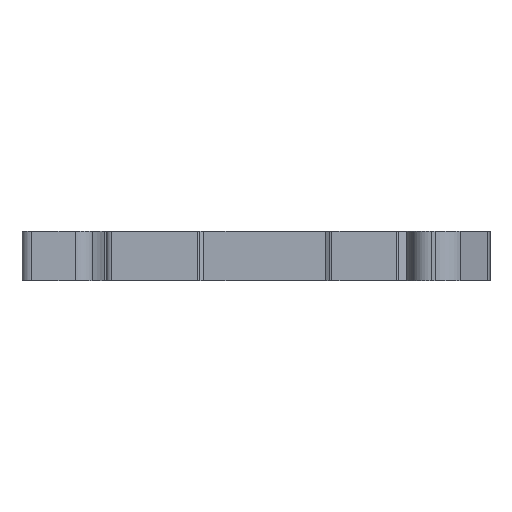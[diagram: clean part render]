
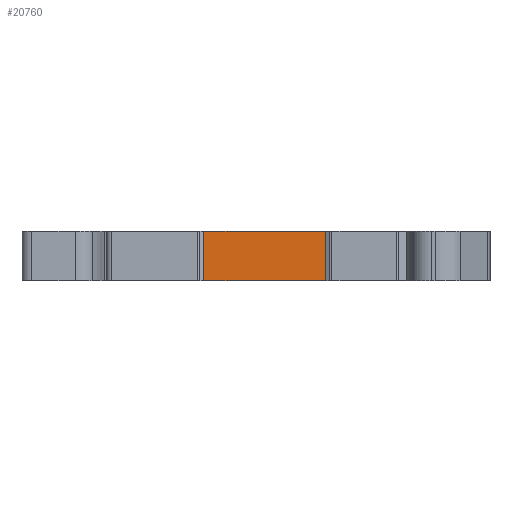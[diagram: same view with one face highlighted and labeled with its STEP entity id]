
A CAD part, front view. The second image highlights one B-rep face of the part: STEP entity #20760.
In plain terms, the highlighted planar face has unit normal (0, -1, 0).
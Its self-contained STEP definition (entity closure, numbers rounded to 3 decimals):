
#20370=CARTESIAN_POINT('',(-165.421,611.146,
5.475));
#20380=DIRECTION('',(0.,-1.,0.));
#20390=DIRECTION('',(-1.,0.,0.));
#20400=AXIS2_PLACEMENT_3D('',#20370,#20380,#20390);
#20410=PLANE('',#20400);
#20420=CARTESIAN_POINT('',(0.,611.146,5.475));
#20430=DIRECTION('',(-1.,0.,0.));
#20440=VECTOR('',#20430,1.);
#20450=LINE('',#20420,#20440);
#20460=CARTESIAN_POINT('',(-152.771,611.146,
5.475));
#20470=VERTEX_POINT('',#20460);
#20480=CARTESIAN_POINT('',(-165.421,611.146,
5.475));
#20490=VERTEX_POINT('',#20480);
#20500=EDGE_CURVE('',#20470,#20490,#20450,.T.);
#20510=ORIENTED_EDGE('',*,*,#20500,.T.);
#20520=CARTESIAN_POINT('',(-152.771,611.146,
5.475));
#20530=DIRECTION('',(0.,0.,-1.));
#20540=VECTOR('',#20530,1.);
#20550=LINE('',#20520,#20540);
#20560=CARTESIAN_POINT('',(-152.771,611.146,
0.325));
#20570=VERTEX_POINT('',#20560);
#20580=EDGE_CURVE('',#20470,#20570,#20550,.T.);
#20590=ORIENTED_EDGE('',*,*,#20580,.F.);
#20600=CARTESIAN_POINT('',(0.,611.146,0.325));
#20610=DIRECTION('',(-1.,0.,0.));
#20620=VECTOR('',#20610,1.);
#20630=LINE('',#20600,#20620);
#20640=CARTESIAN_POINT('',(-165.421,611.146,
0.325));
#20650=VERTEX_POINT('',#20640);
#20660=EDGE_CURVE('',#20570,#20650,#20630,.T.);
#20670=ORIENTED_EDGE('',*,*,#20660,.F.);
#20680=CARTESIAN_POINT('',(-165.421,611.146,0.));
#20690=DIRECTION('',(0.,0.,1.));
#20700=VECTOR('',#20690,1.);
#20710=LINE('',#20680,#20700);
#20720=EDGE_CURVE('',#20650,#20490,#20710,.T.);
#20730=ORIENTED_EDGE('',*,*,#20720,.F.);
#20740=EDGE_LOOP('',(#20730,#20670,#20590,#20510));
#20750=FACE_OUTER_BOUND('',#20740,.T.);
#20760=ADVANCED_FACE('',(#20750),#20410,.T.);
